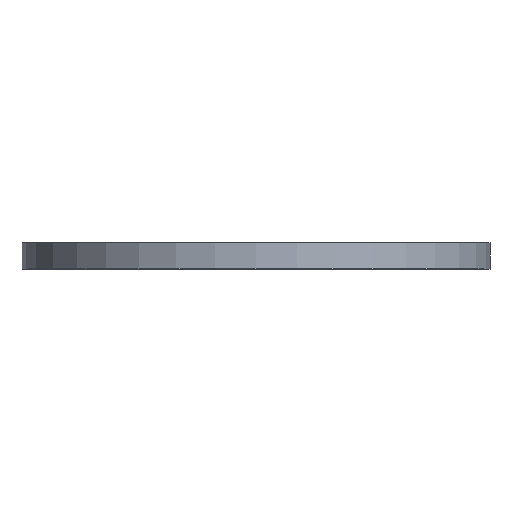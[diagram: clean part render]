
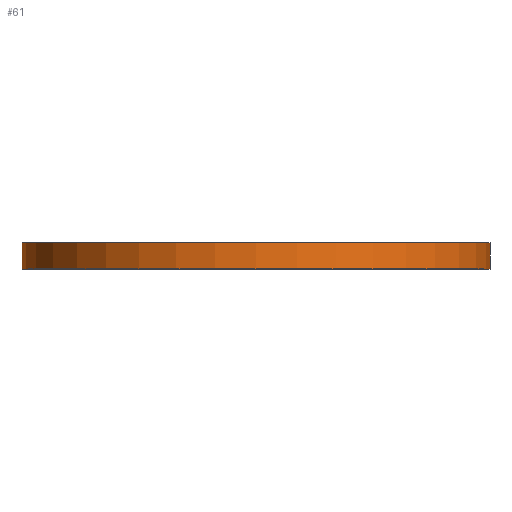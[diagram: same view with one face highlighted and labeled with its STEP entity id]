
A CAD part, top view. The second image highlights one B-rep face of the part: STEP entity #61.
In plain terms, the highlighted cylindrical face has radius 908.05 mm (diameter 1816.1 mm), a full revolution.
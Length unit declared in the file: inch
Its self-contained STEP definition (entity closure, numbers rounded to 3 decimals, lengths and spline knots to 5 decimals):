
#61 = ADVANCED_FACE ( 'NONE', ( #1120, #1067 ), #852, .T. ) ;
#64 = CARTESIAN_POINT ( 'NONE',  ( 0., 4., -35.75 ) ) ;
#130 = CARTESIAN_POINT ( 'NONE',  ( 0., 0., -35.75 ) ) ;
#146 = DIRECTION ( 'NONE',  ( 0., 0., -1. ) ) ;
#266 = CIRCLE ( 'NONE', #408, 35.75 ) ;
#312 = VERTEX_POINT ( 'NONE', #130 ) ;
#321 = VERTEX_POINT ( 'NONE', #64 ) ;
#397 = CARTESIAN_POINT ( 'NONE',  ( 0., 0., 0. ) ) ;
#408 = AXIS2_PLACEMENT_3D ( 'NONE', #1052, #961, #146 ) ;
#587 = EDGE_LOOP ( 'NONE', ( #799 ) ) ;
#607 = DIRECTION ( 'NONE',  ( 0., 0., -1. ) ) ;
#675 = EDGE_CURVE ( 'NONE', #312, #312, #266, .T. ) ;
#683 = EDGE_LOOP ( 'NONE', ( #804 ) ) ;
#697 = DIRECTION ( 'NONE',  ( 0., -1., 0. ) ) ;
#729 = AXIS2_PLACEMENT_3D ( 'NONE', #991, #1091, #827 ) ;
#781 = EDGE_CURVE ( 'NONE', #321, #321, #1165, .T. ) ;
#799 = ORIENTED_EDGE ( 'NONE', *, *, #675, .F. ) ;
#804 = ORIENTED_EDGE ( 'NONE', *, *, #781, .T. ) ;
#827 = DIRECTION ( 'NONE',  ( 0., 0., -1. ) ) ;
#852 = CYLINDRICAL_SURFACE ( 'NONE', #867, 35.75 ) ;
#867 = AXIS2_PLACEMENT_3D ( 'NONE', #397, #697, #607 ) ;
#961 = DIRECTION ( 'NONE',  ( 0., -1., 0. ) ) ;
#991 = CARTESIAN_POINT ( 'NONE',  ( 0., 4., 0. ) ) ;
#1052 = CARTESIAN_POINT ( 'NONE',  ( 0., 0., 0. ) ) ;
#1067 = FACE_OUTER_BOUND ( 'NONE', #683, .T. ) ;
#1091 = DIRECTION ( 'NONE',  ( 0., -1., 0. ) ) ;
#1120 = FACE_OUTER_BOUND ( 'NONE', #587, .T. ) ;
#1165 = CIRCLE ( 'NONE', #729, 35.75 ) ;
